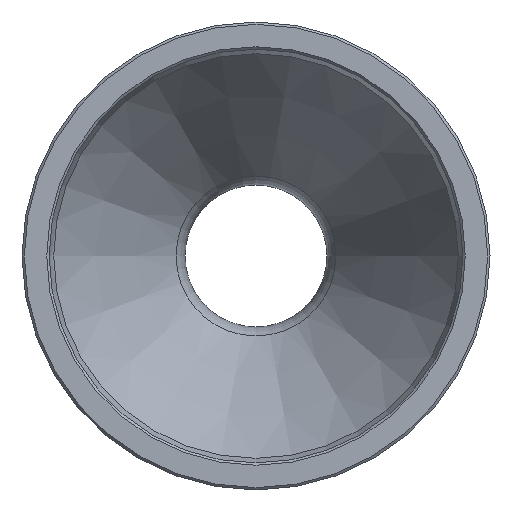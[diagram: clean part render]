
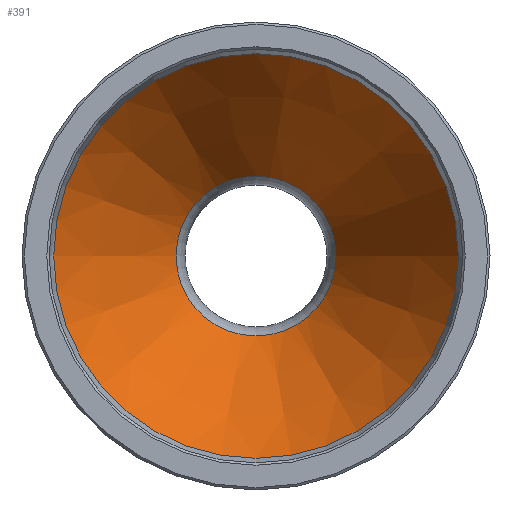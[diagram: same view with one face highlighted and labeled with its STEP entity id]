
A CAD part, left-side view. The second image highlights one B-rep face of the part: STEP entity #391.
In plain terms, the highlighted conical face has half-angle 31.211 degrees and reference radius 11.97 mm.
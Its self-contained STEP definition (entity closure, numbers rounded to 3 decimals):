
#357=CARTESIAN_POINT('',(-4.965,6.779,0.0));
#358=VERTEX_POINT('',#357);
#359=CARTESIAN_POINT('',(-4.965,0.0,0.0));
#360=DIRECTION('',(1.0,0.0,0.0));
#361=DIRECTION('',(0.0,1.0,0.0));
#362=AXIS2_PLACEMENT_3D('',#359,#360,#361);
#363=CIRCLE('',#362,6.779);
#364=EDGE_CURVE('',#358,#358,#363,.T.);
#372=CARTESIAN_POINT('',(-13.533,0.0,0.0));
#373=DIRECTION('',(-1.0,0.0,0.0));
#374=DIRECTION('',(0.0,1.0,0.0));
#375=AXIS2_PLACEMENT_3D('',#372,#373,#374);
#376=CONICAL_SURFACE('',#375,11.97,31.211);
#377=CARTESIAN_POINT('',(-22.101,17.162,0.0));
#378=VERTEX_POINT('',#377);
#379=CARTESIAN_POINT('',(-22.101,0.0,0.0));
#380=DIRECTION('',(1.0,0.0,0.0));
#381=DIRECTION('',(0.0,1.0,0.0));
#382=AXIS2_PLACEMENT_3D('',#379,#380,#381);
#383=CIRCLE('',#382,17.162);
#384=EDGE_CURVE('',#378,#378,#383,.T.);
#385=ORIENTED_EDGE('',*,*,#384,.F.);
#386=EDGE_LOOP('',(#385));
#387=FACE_OUTER_BOUND('',#386,.T.);
#388=ORIENTED_EDGE('',*,*,#364,.T.);
#389=EDGE_LOOP('',(#388));
#390=FACE_BOUND('',#389,.T.);
#391=ADVANCED_FACE('',(#387,#390),#376,.F.);
